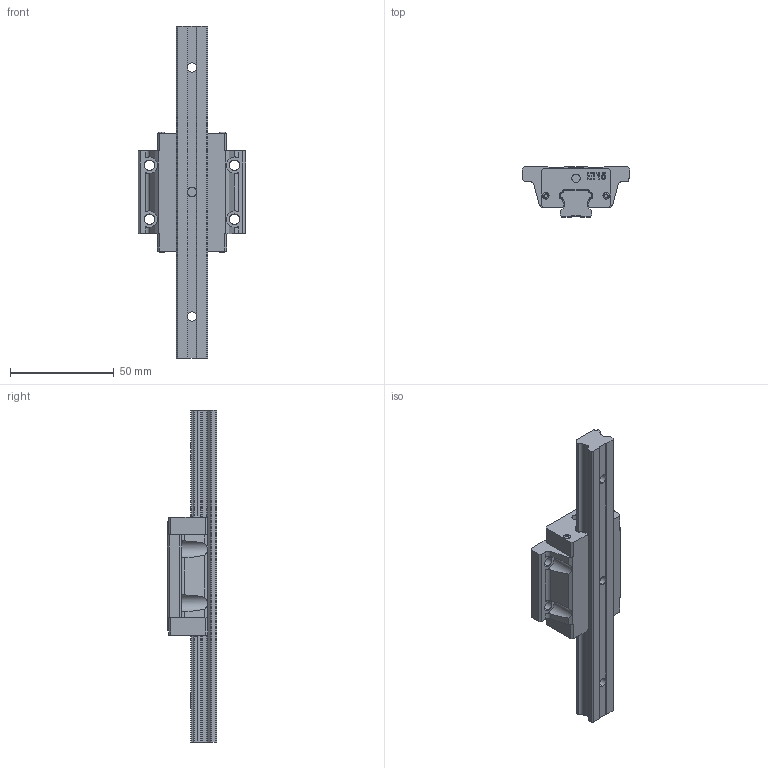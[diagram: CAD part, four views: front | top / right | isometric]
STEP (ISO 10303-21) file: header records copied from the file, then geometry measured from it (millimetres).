
FILE_DESCRIPTION (( 'STEP AP214' ), '1' );
FILE_NAME ('7.1066 Lineaarikelkka ETW15CA.STEP', '2026-03-12T13:17:46', ( '' ), ( '' ), 'SwSTEP 2.0', 'SolidWorks 2025', '' );
FILE_SCHEMA (( 'AUTOMOTIVE_DESIGN' ));
Length unit declared in the file: millimetre
Products named in the file (3): 7.1066 Lineaarikelkka ETW15CA; ET15_RAIL; ETW15CA_BLOCK
Assembly tree (2 placements, depth 2):
  7.1066 Lineaarikelkka ETW15CA
    ETW15CA_BLOCK
    ET15_RAIL
Bounding box: 52 x 24 x 160 mm (x, y, z)
Volume: 61693.1 mm3; surface area: 20362.9 mm2
Topology: 2 solids, 2 shells, 326 faces, 946 edges, 642 vertices
Faces by surface type: plane 180, cylinder 114, bspline 27, torus 5
Entity records: 18158 total; most frequent: CARTESIAN_POINT 6042, ORIENTED_EDGE 1892, DIRECTION 1575, EDGE_CURVE 946, VERTEX_POINT 642, LINE 587, VECTOR 587, AXIS2_PLACEMENT_3D 494
